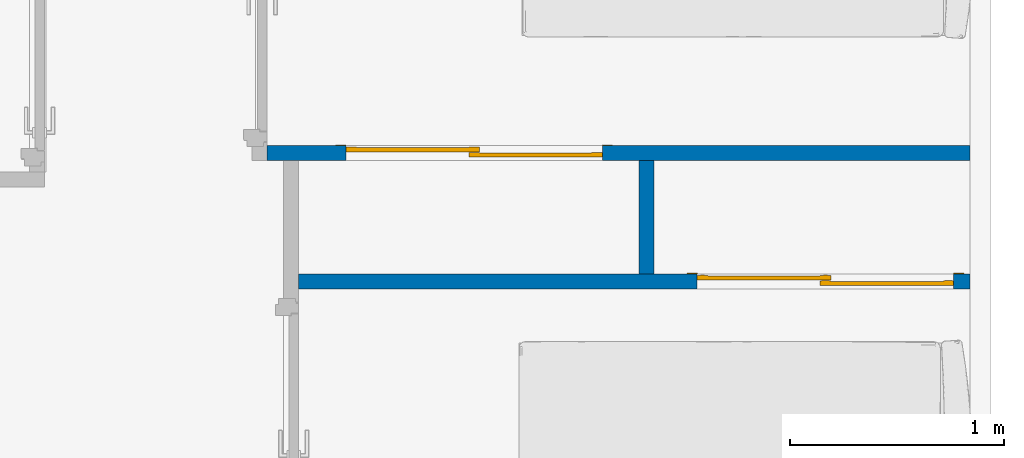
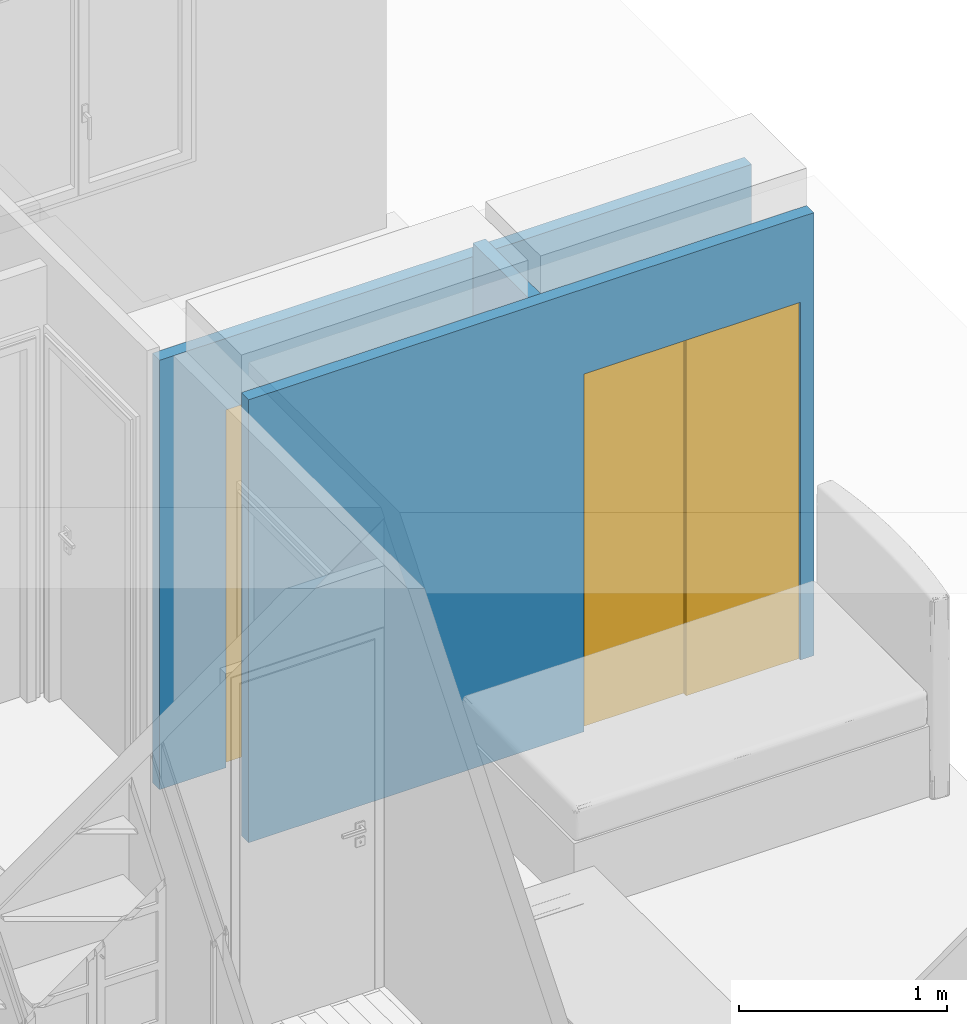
# One storey, part 42 of 61: 3 walls, 2 doors, 2 openings.
"""IFC2X3 building model written with IfcOpenShell, lengths in metres."""

from ifc_helpers import new_model, entity, si_unit, converted_unit, derived_unit, direction, frame, frame_2d, origin, origin_2d_with_axis, place, context, subcontext, project, spatial, polyline, circle_curve, parameter, trimmed, segment, composite_curve, rectangle, outline, extrude, source, transform, mapped, material, material_list, layer, layer_set, layer_usage, type_object, type_shapes, element, fill, save


model = new_model("IFC2X3")

# Units and contexts
model_context = context("Model", 3, precision=1e-05, world=origin(), true_north=direction((6.12303176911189e-17, 1.0)))
body_context = subcontext(model_context, "Body", "Model", "MODEL_VIEW")
ifc_project = project(units=[si_unit("LENGTHUNIT", "METRE"), si_unit("AREAUNIT", "SQUARE_METRE"), si_unit("VOLUMEUNIT", "CUBIC_METRE"), converted_unit("PLANEANGLEUNIT", "DEGREE", entity("IfcRatioMeasure", 0.0174532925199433), si_unit("PLANEANGLEUNIT", "RADIAN"), dimensions=[0, 0, 0, 0, 0, 0, 0]), si_unit("MASSUNIT", "GRAM", prefix="KILO"), derived_unit("MASSDENSITYUNIT", [(si_unit("MASSUNIT", "GRAM", prefix="KILO"), 1), (si_unit("LENGTHUNIT", "METRE"), -3)]), si_unit("TIMEUNIT", "SECOND"), si_unit("FREQUENCYUNIT", "HERTZ"), si_unit("THERMODYNAMICTEMPERATUREUNIT", "DEGREE_CELSIUS"), derived_unit("THERMALTRANSMITTANCEUNIT", [(si_unit("MASSUNIT", "GRAM", prefix="KILO"), 1), (si_unit("THERMODYNAMICTEMPERATUREUNIT", "KELVIN"), -1), (si_unit("TIMEUNIT", "SECOND"), -3)]), derived_unit("VOLUMETRICFLOWRATEUNIT", [(si_unit("LENGTHUNIT", "METRE"), 3), (si_unit("TIMEUNIT", "SECOND"), -1)]), si_unit("ELECTRICCURRENTUNIT", "AMPERE"), si_unit("ELECTRICVOLTAGEUNIT", "VOLT"), si_unit("POWERUNIT", "WATT"), si_unit("FORCEUNIT", "NEWTON", prefix="KILO"), si_unit("ILLUMINANCEUNIT", "LUX"), si_unit("LUMINOUSFLUXUNIT", "LUMEN"), si_unit("LUMINOUSINTENSITYUNIT", "CANDELA"), derived_unit("USERDEFINED", [(si_unit("MASSUNIT", "GRAM", prefix="KILO"), -1), (si_unit("LENGTHUNIT", "METRE"), -2), (si_unit("TIMEUNIT", "SECOND"), 3), (si_unit("LUMINOUSFLUXUNIT", "LUMEN"), 1)]), derived_unit("LINEARVELOCITYUNIT", [(si_unit("LENGTHUNIT", "METRE"), 1), (si_unit("TIMEUNIT", "SECOND"), -1)]), si_unit("PRESSUREUNIT", "PASCAL"), derived_unit("USERDEFINED", [(si_unit("LENGTHUNIT", "METRE"), -2), (si_unit("MASSUNIT", "GRAM", prefix="KILO"), 1), (si_unit("TIMEUNIT", "SECOND"), -2)])], contexts=[model_context])

# Site, building, storey
site_placement = place(None, origin())
site = spatial("IfcSite", under=ifc_project, at=site_placement, Name="Surface", CompositionType="ELEMENT")
building_placement = place(site_placement, origin())
building = spatial("IfcBuilding", under=site, at=building_placement, CompositionType="ELEMENT")
storey_placement = place(building_placement, frame((0.0, 0.0, 2.82)))
storey = spatial("IfcBuildingStorey", under=building, at=storey_placement, Name="ETAGE", CompositionType="ELEMENT", Elevation=2.82)

# Wall, opening, door
ifc_material_1 = material(Name="Peinture - Blanc")
ifc_layer = layer(ifc_material_1, 0.07)
ifc_layer_set = layer_set([ifc_layer], Name="Mur de base:Int.  Platre 70 mm en blanc")
ifc_layer_usage_1 = layer_usage(ifc_layer_set, "AXIS2", "NEGATIVE", 0.035)
wall_type = type_object("IfcWallType", Name="Mur de base:Int.  Platre 70 mm en blanc", PredefinedType="STANDARD", material=ifc_layer_set)
wall_1_placement = place(storey_placement, frame((87.5489023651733, 88.6725239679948, 0.0)))
wall_1 = element("IfcWallStandardCase", 1, at=wall_1_placement, inside=storey, type_object=wall_type, material=ifc_layer_usage_1, Name="Mur de base:Int.  Platre 70 mm en blanc", ObjectType="Mur de base:Int.  Platre 70 mm en blanc", context=body_context, shape_type="SweptSolid", body=[
    extrude(rectangle(XDim=3.28614635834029, YDim=0.0699999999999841, at=frame_2d((1.64307317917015, 2.15105711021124e-16), x_axis=(-1.0, 0.0))), origin(), (0.0, 0.0, 1.0), 2.52),
])
opening_1_placement = place(wall_1_placement, frame((0.368699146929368, -0.0350000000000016, 0.0)))
opening_1 = element("IfcOpeningElement", 2, at=opening_1_placement, cuts=wall_1, Name="Placard coulissante - 2 panneaux:Placard coulissante - 2 panneaux:1", ObjectType="Opening", context=body_context, shape_type="SweptSolid", body=[
    extrude(rectangle(XDim=2.09999999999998, YDim=1.2, at=frame_2d((1.04999999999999, 0.6), x_axis=(1.0, 0.0))), frame((0.0, 0.0, 0.0), z_axis=(0.0, 1.0, 0.0), x_axis=(0.0, 0.0, 1.0)), (0.0, 0.0, 1.0), 0.07),
])
ifc_material_2 = material(Name="Placard - Profil")
ifc_material_3 = material(Name="Placard - Encadrement")
ifc_material_4 = material(Name="Placard - Porte")
ifc_material_list_1 = material_list([ifc_material_2, ifc_material_3, ifc_material_4])
ifc_material_list_2 = material_list([ifc_material_2, ifc_material_3, ifc_material_4])
door_style = type_object("IfcDoorStyle", Name="Placard coulissante - 2 panneaux", ConstructionType="NOTDEFINED", OperationType="NOTDEFINED", ParameterTakesPrecedence=False, Sizeable=False, material=ifc_material_list_2)
shared_shape = source(origin(), body_context, "Body", "SweptSolid", [
    extrude(outline(composite_curve([segment(polyline([(-0.0250000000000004, -0.00100000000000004), (0.0249999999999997, -0.00100000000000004)]), True, "CONTINUOUS"), segment(polyline([(0.0249999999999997, -0.00100000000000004), (0.0249999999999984, 0.00100000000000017)]), True, "CONTINUOUS"), segment(trimmed(circle_curve(frame_2d((0.0, -0.212860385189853), x_axis=(-1.0, 0.0)), 0.215316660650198), [parameter(263.332459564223)], [parameter(276.667540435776)], True, "PARAMETER"), True, "CONTINUOUS"), segment(polyline([(-0.0250000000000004, 0.00100000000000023), (-0.0250000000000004, -0.00100000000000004)]), True, "CONTINUOUS")], self_intersect=False)), frame((1.175, 0.00900000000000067, 0.0), z_axis=(0.0, 0.0, 1.0), x_axis=(-1.0, 0.0, 0.0)), (0.0, 0.0, 1.0), 2.1),
    extrude(outline(composite_curve([segment(polyline([(-0.0250000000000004, -0.00100000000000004), (0.0249999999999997, -0.00100000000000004)]), True, "CONTINUOUS"), segment(polyline([(0.0249999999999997, -0.00100000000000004), (0.0249999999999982, 0.00100000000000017)]), True, "CONTINUOUS"), segment(trimmed(circle_curve(frame_2d((0.0, -0.212860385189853), x_axis=(-1.0, 0.0)), 0.215316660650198), [parameter(263.332459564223)], [parameter(276.667540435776)], True, "PARAMETER"), True, "CONTINUOUS"), segment(polyline([(-0.0250000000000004, 0.00100000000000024), (-0.0250000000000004, -0.00100000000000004)]), True, "CONTINUOUS")], self_intersect=False)), frame((0.599999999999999, 0.00900000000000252, 0.0), z_axis=(0.0, 0.0, 1.0), x_axis=(-1.0, 0.0, 0.0)), (0.0, 0.0, 1.0), 2.1),
    extrude(outline(composite_curve([segment(polyline([(-0.0250000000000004, -0.00100000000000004), (0.0249999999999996, -0.00100000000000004)]), True, "CONTINUOUS"), segment(polyline([(0.0249999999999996, -0.00100000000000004), (0.0249999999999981, 0.00100000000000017)]), True, "CONTINUOUS"), segment(trimmed(circle_curve(frame_2d((0.0, -0.212860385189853), x_axis=(-1.0, 0.0)), 0.215316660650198), [parameter(263.332459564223)], [parameter(276.667540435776)], True, "PARAMETER"), True, "CONTINUOUS"), segment(polyline([(-0.0250000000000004, 0.00100000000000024), (-0.0250000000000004, -0.00100000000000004)]), True, "CONTINUOUS")], self_intersect=False)), frame((0.599999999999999, 0.0340000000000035, 0.0), z_axis=(0.0, 0.0, 1.0), x_axis=(-1.0, 0.0, 0.0)), (0.0, 0.0, 1.0), 2.1),
    extrude(outline(composite_curve([segment(polyline([(-0.0250000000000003, -0.00100000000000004), (0.0249999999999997, -0.00100000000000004)]), True, "CONTINUOUS"), segment(polyline([(0.0249999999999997, -0.00100000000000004), (0.0249999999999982, 0.00100000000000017)]), True, "CONTINUOUS"), segment(trimmed(circle_curve(frame_2d((0.0, -0.212860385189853), x_axis=(-1.0, 0.0)), 0.215316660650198), [parameter(263.332459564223)], [parameter(276.667540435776)], True, "PARAMETER"), True, "CONTINUOUS"), segment(polyline([(-0.0250000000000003, 0.00100000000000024), (-0.0250000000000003, -0.00100000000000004)]), True, "CONTINUOUS")], self_intersect=False)), frame((0.0250000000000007, 0.0340000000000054, 0.0), z_axis=(0.0, 0.0, 1.0), x_axis=(-1.0, 0.0, 0.0)), (0.0, 0.0, 1.0), 2.1),
    extrude(outline(polyline([(-1.06149999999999, -0.647999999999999), (1.08649999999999, -0.647999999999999), (1.08649999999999, 0.647999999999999), (-1.06149999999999, 0.647999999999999), (-1.06149999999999, 0.597999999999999), (1.03649999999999, 0.597999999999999), (1.03649999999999, -0.597999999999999), (-1.06149999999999, -0.597999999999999), (-1.06149999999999, -0.647999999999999)])), frame((0.6, -0.003, 1.06149999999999), z_axis=(0.0, 1.0, 0.0), x_axis=(0.0, 0.0, 1.0)), (0.0, 0.0, 1.0), 0.003),
    extrude(rectangle(XDim=0.020000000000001, YDim=0.625000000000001, at=origin_2d_with_axis()), frame((0.8875, 0.0200000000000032, 0.0), z_axis=(0.0, 0.0, 1.0), x_axis=(0.0, 1.0, 0.0)), (0.0, 0.0, 1.0), 2.1),
    extrude(rectangle(XDim=0.02, YDim=0.624999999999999, at=origin_2d_with_axis()), frame((0.3125, 0.0450000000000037, 0.0), z_axis=(0.0, 0.0, 1.0), x_axis=(0.0, 1.0, 0.0)), (0.0, 0.0, 1.0), 2.1),
])
type_shapes(door_style, [shared_shape])
door_1_placement = place(opening_1_placement, frame((1.19999999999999, 0.0699999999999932, 0.0), z_axis=(0.0, 0.0, 1.0), x_axis=(-1.0, 0.0, 0.0)))
door_1 = element("IfcDoor", 3, at=door_1_placement, inside=storey, type_object=door_style, material=ifc_material_list_1, Name="Placard coulissante - 2 panneaux:Placard coulissante - 2 panneaux", ObjectType="Placard coulissante - 2 panneaux:Placard coulissante - 2 panneaux", OverallHeight=2.09999999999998, OverallWidth=1.2, context=body_context, shape_type="MappedRepresentation", body=[
    mapped(shared_shape, transform((0.0, 0.0, 0.0), scale=1.0)),
])
fill(opening_1, door_1)

ifc_layer_usage_2 = layer_usage(ifc_layer_set, "AXIS2", "NEGATIVE", 0.035)
wall_2_placement = place(storey_placement, frame((87.6967857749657, 88.0725239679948, 0.0)))
wall_2 = element("IfcWallStandardCase", 4, at=wall_2_placement, inside=storey, type_object=wall_type, material=ifc_layer_usage_2, Name="Mur de base:Int.  Platre 70 mm en blanc", ObjectType="Mur de base:Int.  Platre 70 mm en blanc", context=body_context, shape_type="SweptSolid", body=[
    extrude(rectangle(XDim=3.13826294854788, YDim=0.0699999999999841, at=frame_2d((1.56913147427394, -8.53483950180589e-16), x_axis=(-1.0, 0.0))), origin(), (0.0, 0.0, 1.0), 2.6),
])
opening_2_placement = place(wall_2_placement, frame((1.8632629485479, -0.0350000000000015, 0.0)))
opening_2 = element("IfcOpeningElement", 5, at=opening_2_placement, cuts=wall_2, Name="Placard coulissante - 2 panneaux:Placard coulissante - 2 panneaux:1", ObjectType="Opening", context=body_context, shape_type="SweptSolid", body=[
    extrude(rectangle(XDim=2.09999999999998, YDim=1.2, at=frame_2d((1.04999999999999, 0.6), x_axis=(1.0, 0.0))), frame((0.0, 0.0, 0.0), z_axis=(0.0, 1.0, 0.0), x_axis=(0.0, 0.0, 1.0)), (0.0, 0.0, 1.0), 0.07),
])
ifc_material_list_3 = material_list([ifc_material_2, ifc_material_3, ifc_material_4])
door_2_placement = place(opening_2_placement, frame((1.19999999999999, 0.069999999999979, 0.0), z_axis=(0.0, 0.0, 1.0), x_axis=(-1.0, 0.0, 0.0)))
door_2 = element("IfcDoor", 6, at=door_2_placement, inside=storey, type_object=door_style, material=ifc_material_list_3, Name="Placard coulissante - 2 panneaux:Placard coulissante - 2 panneaux", ObjectType="Placard coulissante - 2 panneaux:Placard coulissante - 2 panneaux", OverallHeight=2.09999999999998, OverallWidth=1.2, context=body_context, shape_type="MappedRepresentation", body=[
    mapped(shared_shape, transform((0.0, 0.0, 0.0), scale=1.0)),
])
fill(opening_2, door_2)

# Wall
ifc_layer_usage_3 = layer_usage(ifc_layer_set, "AXIS2", "NEGATIVE", 0.035)
wall_3_placement = place(storey_placement, frame((89.3234172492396, 88.1075239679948, 0.0), z_axis=(0.0, 0.0, 1.0), x_axis=(0.0, 1.0, 0.0)))
element("IfcWallStandardCase", 7, at=wall_3_placement, inside=storey, type_object=wall_type, material=ifc_layer_usage_3, Name="Mur de base:Int.  Platre 70 mm en blanc", ObjectType="Mur de base:Int.  Platre 70 mm en blanc", context=body_context, shape_type="SweptSolid", body=[
    extrude(rectangle(XDim=0.529999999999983, YDim=0.0699999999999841, at=frame_2d((0.264999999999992, 0.0), x_axis=(-1.0, 0.0))), origin(), (0.0, 0.0, 1.0), 2.6),
])

save(model, "model.ifc")
